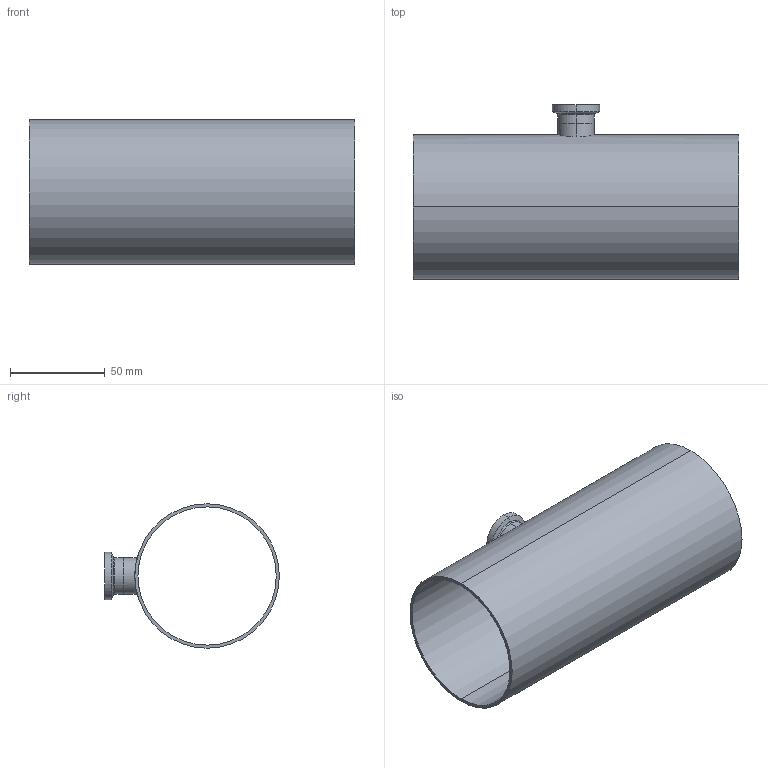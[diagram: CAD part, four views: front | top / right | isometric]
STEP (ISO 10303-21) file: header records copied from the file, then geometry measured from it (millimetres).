
FILE_DESCRIPTION (( 'STEP AP214' ), '1' );
FILE_NAME ('TE7RWWCS6L3.0x.75-...STEP', '2016-05-23T12:15:06', ( 'eran' ), ( '' ), 'SwSTEP 2.0', 'SolidWorks 2016', '' );
FILE_SCHEMA (( 'AUTOMOTIVE_DESIGN' ));
Length unit declared in the file: millimetre
Products named in the file (1): TE7RWWCS6L3.0x.75-..
Bounding box: 171.4 x 92.1 x 76.2 mm (x, y, z)
Volume: 67974.6 mm3; surface area: 83238.5 mm2
Topology: 2 solids, 2 shells, 34 faces, 72 edges, 44 vertices
Faces by surface type: cylinder 16, bspline 8, plane 6, cone 4
Entity records: 1251 total; most frequent: CARTESIAN_POINT 475, DIRECTION 162, ORIENTED_EDGE 144, EDGE_CURVE 72, AXIS2_PLACEMENT_3D 71, VERTEX_POINT 44, CIRCLE 44, EDGE_LOOP 42
